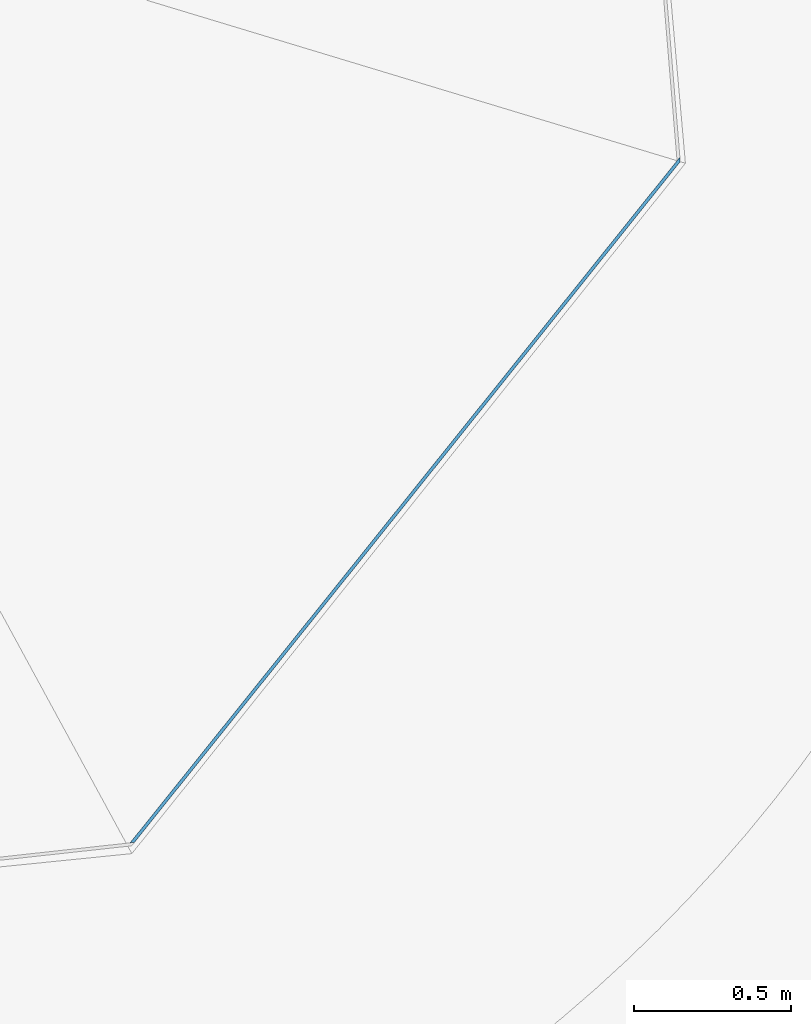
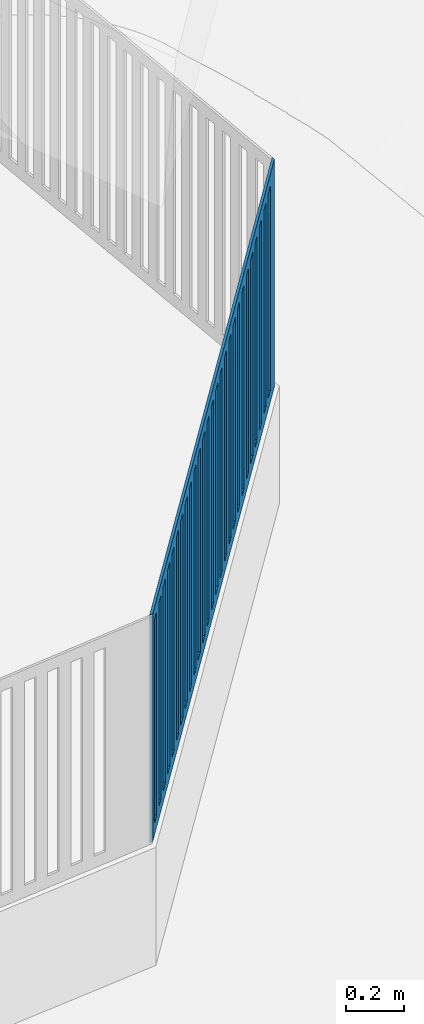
# One storey, part 31 of 75: 1 wall, 27 openings.
"""IFC2X3 building model written with IfcOpenShell, lengths in metres."""

from ifc_helpers import new_model, entity, si_unit, converted_unit, derived_unit, direction, frame, frame_2d, origin, place, context, subcontext, project, spatial, polyline, rectangle, outline, extrude, material, layer, layer_set, layer_usage, type_object, element, save


model = new_model("IFC2X3")

# Units and contexts
model_context = context("Model", 3, precision=1e-05, world=origin(), true_north=direction((6.123031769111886e-17, 1.0)))
body_context = subcontext(model_context, "Body", "Model", "MODEL_VIEW")
ifc_project = project(units=[si_unit("LENGTHUNIT", "METRE"), si_unit("AREAUNIT", "SQUARE_METRE"), si_unit("VOLUMEUNIT", "CUBIC_METRE"), converted_unit("PLANEANGLEUNIT", "DEGREE", entity("IfcRatioMeasure", 0.017453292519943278), si_unit("PLANEANGLEUNIT", "RADIAN"), dimensions=[0, 0, 0, 0, 0, 0, 0]), si_unit("MASSUNIT", "GRAM", prefix="KILO"), derived_unit("MASSDENSITYUNIT", [(si_unit("MASSUNIT", "GRAM", prefix="KILO"), 1), (si_unit("LENGTHUNIT", "METRE"), -3)]), derived_unit("IONCONCENTRATIONUNIT", [(si_unit("MASSUNIT", "GRAM", prefix="KILO"), 1), (si_unit("LENGTHUNIT", "METRE"), -3)]), derived_unit("MOMENTOFINERTIAUNIT", [(si_unit("LENGTHUNIT", "METRE"), 4)]), si_unit("TIMEUNIT", "SECOND"), si_unit("FREQUENCYUNIT", "HERTZ"), si_unit("THERMODYNAMICTEMPERATUREUNIT", "DEGREE_CELSIUS"), derived_unit("THERMALTRANSMITTANCEUNIT", [(si_unit("MASSUNIT", "GRAM", prefix="KILO"), 1), (si_unit("THERMODYNAMICTEMPERATUREUNIT", "KELVIN"), -1), (si_unit("TIMEUNIT", "SECOND"), -3)]), derived_unit("THERMALCONDUCTANCEUNIT", [(si_unit("MASSUNIT", "GRAM", prefix="KILO"), 1), (si_unit("THERMODYNAMICTEMPERATUREUNIT", "KELVIN"), -1), (si_unit("TIMEUNIT", "SECOND"), -3), (si_unit("LENGTHUNIT", "METRE"), 1)]), derived_unit("VOLUMETRICFLOWRATEUNIT", [(si_unit("LENGTHUNIT", "METRE"), 3), (si_unit("TIMEUNIT", "SECOND"), -1)]), derived_unit("MASSFLOWRATEUNIT", [(si_unit("MASSUNIT", "GRAM", prefix="KILO"), 1), (si_unit("TIMEUNIT", "SECOND"), -1)]), derived_unit("ROTATIONALFREQUENCYUNIT", [(si_unit("TIMEUNIT", "SECOND"), -1)]), si_unit("ELECTRICCURRENTUNIT", "AMPERE"), si_unit("ELECTRICVOLTAGEUNIT", "VOLT"), si_unit("POWERUNIT", "WATT"), si_unit("FORCEUNIT", "NEWTON", prefix="KILO"), si_unit("ILLUMINANCEUNIT", "LUX"), si_unit("LUMINOUSFLUXUNIT", "LUMEN"), si_unit("LUMINOUSINTENSITYUNIT", "CANDELA"), derived_unit("USERDEFINED", [(si_unit("MASSUNIT", "GRAM", prefix="KILO"), -1), (si_unit("LENGTHUNIT", "METRE"), -2), (si_unit("TIMEUNIT", "SECOND"), 3), (si_unit("LUMINOUSFLUXUNIT", "LUMEN"), 1)]), derived_unit("USERDEFINED", [(si_unit("MASSUNIT", "GRAM", prefix="KILO"), 1), (si_unit("TIMEUNIT", "SECOND"), -3), (si_unit("LENGTHUNIT", "METRE"), 3), (si_unit("ELECTRICCURRENTUNIT", "AMPERE"), -2)]), derived_unit("SOUNDPOWERUNIT", [(si_unit("MASSUNIT", "GRAM", prefix="KILO"), 1), (si_unit("TIMEUNIT", "SECOND"), -3), (si_unit("LENGTHUNIT", "METRE"), 2)]), derived_unit("SOUNDPRESSUREUNIT", [(si_unit("MASSUNIT", "GRAM", prefix="KILO"), 1), (si_unit("LENGTHUNIT", "METRE"), -1), (si_unit("TIMEUNIT", "SECOND"), -2)]), derived_unit("LINEARVELOCITYUNIT", [(si_unit("LENGTHUNIT", "METRE"), 1), (si_unit("TIMEUNIT", "SECOND"), -1)]), si_unit("PRESSUREUNIT", "PASCAL"), derived_unit("USERDEFINED", [(si_unit("MASSUNIT", "GRAM", prefix="KILO"), 1), (si_unit("LENGTHUNIT", "METRE"), -2), (si_unit("TIMEUNIT", "SECOND"), -2)]), derived_unit("LINEARFORCEUNIT", [(si_unit("MASSUNIT", "GRAM", prefix="KILO"), 1), (si_unit("TIMEUNIT", "SECOND"), -2)]), derived_unit("PLANARFORCEUNIT", [(si_unit("MASSUNIT", "GRAM", prefix="KILO"), 1), (si_unit("LENGTHUNIT", "METRE"), -1), (si_unit("TIMEUNIT", "SECOND"), -2)]), derived_unit("SPECIFICHEATCAPACITYUNIT", [(si_unit("THERMODYNAMICTEMPERATUREUNIT", "KELVIN"), -1), (si_unit("LENGTHUNIT", "METRE"), 2), (si_unit("TIMEUNIT", "SECOND"), -2)]), derived_unit("HEATINGVALUEUNIT", [(si_unit("LENGTHUNIT", "METRE"), 2), (si_unit("TIMEUNIT", "SECOND"), -2)]), derived_unit("VAPORPERMEABILITYUNIT", [(si_unit("LENGTHUNIT", "METRE"), -1), (si_unit("TIMEUNIT", "SECOND"), 1)]), derived_unit("DYNAMICVISCOSITYUNIT", [(si_unit("MASSUNIT", "GRAM", prefix="KILO"), 1), (si_unit("TIMEUNIT", "SECOND"), -1), (si_unit("LENGTHUNIT", "METRE"), -1)]), derived_unit("THERMALEXPANSIONCOEFFICIENTUNIT", [(si_unit("THERMODYNAMICTEMPERATUREUNIT", "KELVIN"), -1)]), derived_unit("MODULUSOFELASTICITYUNIT", [(si_unit("MASSUNIT", "GRAM", prefix="KILO"), 1), (si_unit("LENGTHUNIT", "METRE"), -1), (si_unit("TIMEUNIT", "SECOND"), -2)]), derived_unit("ISOTHERMALMOISTURECAPACITYUNIT", [(si_unit("LENGTHUNIT", "METRE"), 3), (si_unit("MASSUNIT", "GRAM", prefix="KILO"), -1)]), derived_unit("MOISTUREDIFFUSIVITYUNIT", [(si_unit("TIMEUNIT", "SECOND"), -1), (si_unit("LENGTHUNIT", "METRE"), 2)])], contexts=[model_context])

# Site, building, storey
site_placement = place(None, origin())
site = spatial("IfcSite", under=ifc_project, at=site_placement, Name="Default", CompositionType="ELEMENT")
building_placement = place(site_placement, origin())
building = spatial("IfcBuilding", under=site, at=building_placement, Name="Projeto", CompositionType="ELEMENT")
storey_placement = place(building_placement, origin())
storey = spatial("IfcBuildingStorey", under=building, at=storey_placement, Name="Nível 1", CompositionType="ELEMENT", Elevation=0.0)

# Wall, openings
ifc_material = material(Name=".ARQ.PIS - CONTRAPISO.ARMADO")
ifc_layer = layer(ifc_material, 0.01)
ifc_layer_set = layer_set([ifc_layer], Name="Parede básica:15cm 2")
ifc_layer_usage = layer_usage(ifc_layer_set, "AXIS2", "POSITIVE", -0.005000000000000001)
wall_type = type_object("IfcWallType", Name="Parede básica:15cm 2", PredefinedType="STANDARD", material=ifc_layer_set)
wall_placement = place(storey_placement, frame((21.78486297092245, 28.37029751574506, -2.1), z_axis=(0.0, 0.0, 1.0), x_axis=(0.6255850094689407, 0.7801560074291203, 0.0)))
wall = element("IfcWallStandardCase", 1, at=wall_placement, inside=storey, type_object=wall_type, material=ifc_layer_usage, Name="Parede básica:15cm 2", ObjectType="Parede básica:15cm 2", context=body_context, shape_type="SweptSolid", body=[
    extrude(outline(polyline([(0.804475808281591, -0.7702344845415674), (0.8190177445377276, -0.7702344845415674), (0.8084599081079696, -0.7602344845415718), (-1.2161658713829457, 1.1574176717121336), (-1.2157875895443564, 1.143285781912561), (0.804475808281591, -0.7702344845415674)])), frame((1.678886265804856, 0.0010000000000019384, 0.0), z_axis=(0.0, 0.0, 1.0), x_axis=(0.7260268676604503, 0.6876663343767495, 0.0)), (0.0, 0.0, 1.0), 0.964009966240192),
])
opening_1_placement = place(storey_placement, frame((21.78486297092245, 28.37029751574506, -2.1), z_axis=(0.0, 0.0, 1.0), x_axis=(0.6255850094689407, 0.7801560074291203, 0.0)))
element("IfcOpeningElement", 2, at=opening_1_placement, cuts=wall, Name="Parede básica:15cm 2:1", ObjectType="Opening", context=body_context, shape_type="SweptSolid", body=[
    extrude(rectangle(XDim=0.8640099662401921, YDim=0.04999999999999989, at=frame_2d((3.0444397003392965e-15, 1.3877787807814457e-16), x_axis=(0.0, 1.0))), frame((0.07292785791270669, -0.004999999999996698, 0.48200498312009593), z_axis=(0.0, 1.0, 0.0), x_axis=(-1.0, 0.0, 0.0)), (0.0, 0.0, 1.0), 0.009999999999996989),
])
opening_2_placement = place(storey_placement, frame((21.78486297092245, 28.37029751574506, -2.1), z_axis=(0.0, 0.0, 1.0), x_axis=(0.6255850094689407, 0.7801560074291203, 0.0)))
element("IfcOpeningElement", 3, at=opening_2_placement, cuts=wall, Name="Parede básica:15cm 2:2", ObjectType="Opening", context=body_context, shape_type="SweptSolid", body=[
    extrude(rectangle(XDim=0.8640099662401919, YDim=0.05000000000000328, at=frame_2d((1.3548190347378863e-15, 0.0), x_axis=(0.0, 1.0))), frame((0.17292785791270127, -0.004999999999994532, 0.48200498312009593), z_axis=(0.0, 1.0, 0.0), x_axis=(-1.0, 0.0, 0.0)), (0.0, 0.0, 1.0), 0.009999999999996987),
])
opening_3_placement = place(storey_placement, frame((21.78486297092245, 28.37029751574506, -2.1), z_axis=(0.0, 0.0, 1.0), x_axis=(0.6255850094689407, 0.7801560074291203, 0.0)))
element("IfcOpeningElement", 4, at=opening_3_placement, cuts=wall, Name="Parede básica:15cm 2:3", ObjectType="Opening", context=body_context, shape_type="SweptSolid", body=[
    extrude(rectangle(XDim=0.8640099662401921, YDim=0.05000000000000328, at=frame_2d((1.3548190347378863e-15, -1.3877787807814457e-16), x_axis=(0.0, 1.0))), frame((0.27292785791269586, -0.005000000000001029, 0.48200498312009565), z_axis=(0.0, 1.0, 0.0), x_axis=(-1.0, 0.0, 0.0)), (0.0, 0.0, 1.0), 0.009999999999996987),
])
opening_4_placement = place(storey_placement, frame((21.78486297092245, 28.37029751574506, -2.1), z_axis=(0.0, 0.0, 1.0), x_axis=(0.6255850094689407, 0.7801560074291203, 0.0)))
element("IfcOpeningElement", 5, at=opening_4_placement, cuts=wall, Name="Parede básica:15cm 2:4", ObjectType="Opening", context=body_context, shape_type="SweptSolid", body=[
    extrude(rectangle(XDim=0.8640099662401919, YDim=0.04999999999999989, at=frame_2d((3.0444397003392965e-15, 2.7755575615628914e-16), x_axis=(0.0, 1.0))), frame((0.3729278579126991, -0.004999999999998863, 0.48200498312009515), z_axis=(0.0, 1.0, 0.0), x_axis=(-1.0, 0.0, 0.0)), (0.0, 0.0, 1.0), 0.009999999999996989),
])
opening_5_placement = place(storey_placement, frame((21.78486297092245, 28.37029751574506, -2.1), z_axis=(0.0, 0.0, 1.0), x_axis=(0.6255850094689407, 0.7801560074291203, 0.0)))
element("IfcOpeningElement", 6, at=opening_5_placement, cuts=wall, Name="Parede básica:15cm 2:5", ObjectType="Opening", context=body_context, shape_type="SweptSolid", body=[
    extrude(rectangle(XDim=0.8640099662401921, YDim=0.04999999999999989, at=frame_2d((-6.087144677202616e-15, 1.3877787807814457e-16), x_axis=(0.0, 1.0))), frame((0.47292785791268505, -0.004999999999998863, 0.4820049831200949), z_axis=(0.0, 1.0, 0.0), x_axis=(-1.0, 0.0, 0.0)), (0.0, 0.0, 1.0), 0.009999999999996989),
])
opening_6_placement = place(storey_placement, frame((21.78486297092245, 28.37029751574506, -2.1), z_axis=(0.0, 0.0, 1.0), x_axis=(0.6255850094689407, 0.7801560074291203, 0.0)))
element("IfcOpeningElement", 7, at=opening_6_placement, cuts=wall, Name="Parede básica:15cm 2:6", ObjectType="Opening", context=body_context, shape_type="SweptSolid", body=[
    extrude(rectangle(XDim=0.8640099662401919, YDim=0.04999999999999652, at=frame_2d((-1.3530843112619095e-15, 0.0), x_axis=(0.0, 1.0))), frame((0.572927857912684, -0.004999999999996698, 0.4820049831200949), z_axis=(0.0, 1.0, 0.0), x_axis=(-1.0, 0.0, 0.0)), (0.0, 0.0, 1.0), 0.009999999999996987),
])
opening_7_placement = place(storey_placement, frame((21.78486297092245, 28.37029751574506, -2.1), z_axis=(0.0, 0.0, 1.0), x_axis=(0.6255850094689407, 0.7801560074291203, 0.0)))
element("IfcOpeningElement", 8, at=opening_7_placement, cuts=wall, Name="Parede básica:15cm 2:7", ObjectType="Opening", context=body_context, shape_type="SweptSolid", body=[
    extrude(rectangle(XDim=0.8640099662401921, YDim=0.04999999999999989, at=frame_2d((3.0444397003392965e-15, -1.3877787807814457e-16), x_axis=(0.0, 1.0))), frame((0.672927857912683, -0.004999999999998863, 0.4820049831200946), z_axis=(0.0, 1.0, 0.0), x_axis=(-1.0, 0.0, 0.0)), (0.0, 0.0, 1.0), 0.009999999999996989),
])
opening_8_placement = place(storey_placement, frame((21.78486297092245, 28.37029751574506, -2.1), z_axis=(0.0, 0.0, 1.0), x_axis=(0.6255850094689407, 0.7801560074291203, 0.0)))
element("IfcOpeningElement", 9, at=opening_8_placement, cuts=wall, Name="Parede básica:15cm 2:8", ObjectType="Opening", context=body_context, shape_type="SweptSolid", body=[
    extrude(rectangle(XDim=0.8640099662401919, YDim=0.04999999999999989, at=frame_2d((3.0444397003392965e-15, -2.7755575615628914e-16), x_axis=(0.0, 1.0))), frame((0.7729278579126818, -0.004999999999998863, 0.4820049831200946), z_axis=(0.0, 1.0, 0.0), x_axis=(-1.0, 0.0, 0.0)), (0.0, 0.0, 1.0), 0.009999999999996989),
])
opening_9_placement = place(storey_placement, frame((21.78486297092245, 28.37029751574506, -2.1), z_axis=(0.0, 0.0, 1.0), x_axis=(0.6255850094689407, 0.7801560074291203, 0.0)))
element("IfcOpeningElement", 10, at=opening_9_placement, cuts=wall, Name="Parede básica:15cm 2:9", ObjectType="Opening", context=body_context, shape_type="SweptSolid", body=[
    extrude(rectangle(XDim=0.8640099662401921, YDim=0.04999999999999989, at=frame_2d((-3.0444397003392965e-15, 1.3877787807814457e-16), x_axis=(0.0, 1.0))), frame((0.8729278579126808, -0.005000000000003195, 0.48200498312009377), z_axis=(0.0, 1.0, 0.0), x_axis=(-1.0, 0.0, 0.0)), (0.0, 0.0, 1.0), 0.009999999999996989),
])
opening_10_placement = place(storey_placement, frame((21.78486297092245, 28.37029751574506, -2.1), z_axis=(0.0, 0.0, 1.0), x_axis=(0.6255850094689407, 0.7801560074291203, 0.0)))
element("IfcOpeningElement", 11, at=opening_10_placement, cuts=wall, Name="Parede básica:15cm 2:10", ObjectType="Opening", context=body_context, shape_type="SweptSolid", body=[
    extrude(rectangle(XDim=0.8640099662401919, YDim=0.04999999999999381, at=frame_2d((0.0, 2.7755575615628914e-16), x_axis=(0.0, 1.0))), frame((0.9729278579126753, -0.004999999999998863, 0.482004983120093), z_axis=(0.0, 1.0, 0.0), x_axis=(-1.0, 0.0, 0.0)), (0.0, 0.0, 1.0), 0.009999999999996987),
])
opening_11_placement = place(storey_placement, frame((21.78486297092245, 28.37029751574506, -2.1), z_axis=(0.0, 0.0, 1.0), x_axis=(0.6255850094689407, 0.7801560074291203, 0.0)))
element("IfcOpeningElement", 12, at=opening_11_placement, cuts=wall, Name="Parede básica:15cm 2:11", ObjectType="Opening", context=body_context, shape_type="SweptSolid", body=[
    extrude(rectangle(XDim=0.8640099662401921, YDim=0.04999999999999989, at=frame_2d((-4.7340603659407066e-15, 1.3877787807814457e-16), x_axis=(0.0, 1.0))), frame((1.0729278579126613, -0.005000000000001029, 0.4820049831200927), z_axis=(0.0, 1.0, 0.0), x_axis=(-1.0, 0.0, 0.0)), (0.0, 0.0, 1.0), 0.009999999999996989),
])
opening_12_placement = place(storey_placement, frame((21.78486297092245, 28.37029751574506, -2.1), z_axis=(0.0, 0.0, 1.0), x_axis=(0.6255850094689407, 0.7801560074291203, 0.0)))
element("IfcOpeningElement", 13, at=opening_12_placement, cuts=wall, Name="Parede básica:15cm 2:12", ObjectType="Opening", context=body_context, shape_type="SweptSolid", body=[
    extrude(rectangle(XDim=0.8640099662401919, YDim=0.04999999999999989, at=frame_2d((3.0444397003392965e-15, 0.0), x_axis=(0.0, 1.0))), frame((1.1729278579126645, -0.004999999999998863, 0.4820049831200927), z_axis=(0.0, 1.0, 0.0), x_axis=(-1.0, 0.0, 0.0)), (0.0, 0.0, 1.0), 0.009999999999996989),
])
opening_13_placement = place(storey_placement, frame((21.78486297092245, 28.37029751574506, -2.1), z_axis=(0.0, 0.0, 1.0), x_axis=(0.6255850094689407, 0.7801560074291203, 0.0)))
element("IfcOpeningElement", 14, at=opening_13_placement, cuts=wall, Name="Parede básica:15cm 2:13", ObjectType="Opening", context=body_context, shape_type="SweptSolid", body=[
    extrude(rectangle(XDim=0.8640099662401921, YDim=0.04999999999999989, at=frame_2d((-1.6878859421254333e-15, -1.3877787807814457e-16), x_axis=(0.0, 1.0))), frame((1.272927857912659, -0.005000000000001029, 0.48200498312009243), z_axis=(0.0, 1.0, 0.0), x_axis=(-1.0, 0.0, 0.0)), (0.0, 0.0, 1.0), 0.009999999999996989),
])
opening_14_placement = place(storey_placement, frame((21.78486297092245, 28.37029751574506, -2.1), z_axis=(0.0, 0.0, 1.0), x_axis=(0.6255850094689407, 0.7801560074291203, 0.0)))
element("IfcOpeningElement", 15, at=opening_14_placement, cuts=wall, Name="Parede básica:15cm 2:14", ObjectType="Opening", context=body_context, shape_type="SweptSolid", body=[
    extrude(rectangle(XDim=0.8640099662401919, YDim=0.04999999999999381, at=frame_2d((1.3530843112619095e-15, -2.7755575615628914e-16), x_axis=(0.0, 1.0))), frame((1.3729278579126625, -0.005000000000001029, 0.48200498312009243), z_axis=(0.0, 1.0, 0.0), x_axis=(-1.0, 0.0, 0.0)), (0.0, 0.0, 1.0), 0.009999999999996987),
])
opening_15_placement = place(storey_placement, frame((21.78486297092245, 28.37029751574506, -2.1), z_axis=(0.0, 0.0, 1.0), x_axis=(0.6255850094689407, 0.7801560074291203, 0.0)))
element("IfcOpeningElement", 16, at=opening_15_placement, cuts=wall, Name="Parede básica:15cm 2:15", ObjectType="Opening", context=body_context, shape_type="SweptSolid", body=[
    extrude(rectangle(XDim=0.8640099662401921, YDim=0.04999999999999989, at=frame_2d((-3.0444397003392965e-15, 1.3877787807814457e-16), x_axis=(0.0, 1.0))), frame((1.4729278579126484, -0.004999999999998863, 0.4820049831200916), z_axis=(0.0, 1.0, 0.0), x_axis=(-1.0, 0.0, 0.0)), (0.0, 0.0, 1.0), 0.009999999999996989),
])
opening_16_placement = place(storey_placement, frame((21.78486297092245, 28.37029751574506, -2.1), z_axis=(0.0, 0.0, 1.0), x_axis=(0.6255850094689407, 0.7801560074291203, 0.0)))
element("IfcOpeningElement", 17, at=opening_16_placement, cuts=wall, Name="Parede básica:15cm 2:16", ObjectType="Opening", context=body_context, shape_type="SweptSolid", body=[
    extrude(rectangle(XDim=0.8640099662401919, YDim=0.04999999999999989, at=frame_2d((-3.0444397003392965e-15, 0.0), x_axis=(0.0, 1.0))), frame((1.5729278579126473, -0.004999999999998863, 0.4820049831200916), z_axis=(0.0, 1.0, 0.0), x_axis=(-1.0, 0.0, 0.0)), (0.0, 0.0, 1.0), 0.009999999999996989),
])
opening_17_placement = place(storey_placement, frame((21.78486297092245, 28.37029751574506, -2.1), z_axis=(0.0, 0.0, 1.0), x_axis=(0.6255850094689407, 0.7801560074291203, 0.0)))
element("IfcOpeningElement", 18, at=opening_17_placement, cuts=wall, Name="Parede básica:15cm 2:17", ObjectType="Opening", context=body_context, shape_type="SweptSolid", body=[
    extrude(rectangle(XDim=0.8640099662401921, YDim=0.04999999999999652, at=frame_2d((-1.3530843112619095e-15, -1.3877787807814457e-16), x_axis=(0.0, 1.0))), frame((1.6729278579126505, -0.004999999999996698, 0.4820049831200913), z_axis=(0.0, 1.0, 0.0), x_axis=(-1.0, 0.0, 0.0)), (0.0, 0.0, 1.0), 0.009999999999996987),
])
opening_18_placement = place(storey_placement, frame((21.78486297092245, 28.37029751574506, -2.1), z_axis=(0.0, 0.0, 1.0), x_axis=(0.6255850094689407, 0.7801560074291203, 0.0)))
element("IfcOpeningElement", 19, at=opening_18_placement, cuts=wall, Name="Parede básica:15cm 2:18", ObjectType="Opening", context=body_context, shape_type="SweptSolid", body=[
    extrude(rectangle(XDim=0.8640099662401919, YDim=0.04999999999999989, at=frame_2d((3.0444397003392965e-15, 2.7755575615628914e-16), x_axis=(0.0, 1.0))), frame((1.772927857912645, -0.005000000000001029, 0.4820049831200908), z_axis=(0.0, 1.0, 0.0), x_axis=(-1.0, 0.0, 0.0)), (0.0, 0.0, 1.0), 0.009999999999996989),
])
opening_19_placement = place(storey_placement, frame((21.78486297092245, 28.37029751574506, -2.1), z_axis=(0.0, 0.0, 1.0), x_axis=(0.6255850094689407, 0.7801560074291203, 0.0)))
element("IfcOpeningElement", 20, at=opening_19_placement, cuts=wall, Name="Parede básica:15cm 2:19", ObjectType="Opening", context=body_context, shape_type="SweptSolid", body=[
    extrude(rectangle(XDim=0.8640099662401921, YDim=0.04999999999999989, at=frame_2d((-3.0444397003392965e-15, -1.3877787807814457e-16), x_axis=(0.0, 1.0))), frame((1.872927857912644, -0.005000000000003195, 0.48200498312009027), z_axis=(0.0, 1.0, 0.0), x_axis=(-1.0, 0.0, 0.0)), (0.0, 0.0, 1.0), 0.009999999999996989),
])
opening_20_placement = place(storey_placement, frame((21.78486297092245, 28.37029751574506, -2.1), z_axis=(0.0, 0.0, 1.0), x_axis=(0.6255850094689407, 0.7801560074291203, 0.0)))
element("IfcOpeningElement", 21, at=opening_20_placement, cuts=wall, Name="Parede básica:15cm 2:20", ObjectType="Opening", context=body_context, shape_type="SweptSolid", body=[
    extrude(rectangle(XDim=0.8640099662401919, YDim=0.04999999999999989, at=frame_2d((3.0444397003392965e-15, -2.7755575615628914e-16), x_axis=(0.0, 1.0))), frame((1.9729278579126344, -0.004999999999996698, 0.48200498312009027), z_axis=(0.0, 1.0, 0.0), x_axis=(-1.0, 0.0, 0.0)), (0.0, 0.0, 1.0), 0.009999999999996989),
])
opening_21_placement = place(storey_placement, frame((21.78486297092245, 28.37029751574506, -2.1), z_axis=(0.0, 0.0, 1.0), x_axis=(0.6255850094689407, 0.7801560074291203, 0.0)))
element("IfcOpeningElement", 22, at=opening_21_placement, cuts=wall, Name="Parede básica:15cm 2:21", ObjectType="Opening", context=body_context, shape_type="SweptSolid", body=[
    extrude(rectangle(XDim=0.8640099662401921, YDim=0.04999999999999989, at=frame_2d((3.0444397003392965e-15, 1.3877787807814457e-16), x_axis=(0.0, 1.0))), frame((2.0729278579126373, -0.004999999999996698, 0.48200498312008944), z_axis=(0.0, 1.0, 0.0), x_axis=(-1.0, 0.0, 0.0)), (0.0, 0.0, 1.0), 0.009999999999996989),
])
opening_22_placement = place(storey_placement, frame((21.78486297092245, 28.37029751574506, -2.1), z_axis=(0.0, 0.0, 1.0), x_axis=(0.6255850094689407, 0.7801560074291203, 0.0)))
element("IfcOpeningElement", 23, at=opening_22_placement, cuts=wall, Name="Parede básica:15cm 2:22", ObjectType="Opening", context=body_context, shape_type="SweptSolid", body=[
    extrude(rectangle(XDim=0.8640099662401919, YDim=0.049999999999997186, at=frame_2d((-3.380976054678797e-15, 0.0), x_axis=(0.0, 1.0))), frame((2.172927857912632, -0.005000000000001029, 0.48200498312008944), z_axis=(0.0, 1.0, 0.0), x_axis=(-1.0, 0.0, 0.0)), (0.0, 0.0, 1.0), 0.009999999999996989),
])
opening_23_placement = place(storey_placement, frame((21.78486297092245, 28.37029751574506, -2.1), z_axis=(0.0, 0.0, 1.0), x_axis=(0.6255850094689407, 0.7801560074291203, 0.0)))
element("IfcOpeningElement", 24, at=opening_23_placement, cuts=wall, Name="Parede básica:15cm 2:23", ObjectType="Opening", context=body_context, shape_type="SweptSolid", body=[
    extrude(rectangle(XDim=0.8640099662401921, YDim=0.04999999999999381, at=frame_2d((0.0, -1.3877787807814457e-16), x_axis=(0.0, 1.0))), frame((2.272927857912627, -0.005000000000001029, 0.48200498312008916), z_axis=(0.0, 1.0, 0.0), x_axis=(-1.0, 0.0, 0.0)), (0.0, 0.0, 1.0), 0.009999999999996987),
])
opening_24_placement = place(storey_placement, frame((21.78486297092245, 28.37029751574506, -2.1), z_axis=(0.0, 0.0, 1.0), x_axis=(0.6255850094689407, 0.7801560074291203, 0.0)))
element("IfcOpeningElement", 25, at=opening_24_placement, cuts=wall, Name="Parede básica:15cm 2:24", ObjectType="Opening", context=body_context, shape_type="SweptSolid", body=[
    extrude(rectangle(XDim=0.8640099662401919, YDim=0.04999999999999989, at=frame_2d((3.0444397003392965e-15, 2.7755575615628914e-16), x_axis=(0.0, 1.0))), frame((2.37292785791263, -0.004999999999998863, 0.48200498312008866), z_axis=(0.0, 1.0, 0.0), x_axis=(-1.0, 0.0, 0.0)), (0.0, 0.0, 1.0), 0.009999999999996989),
])
opening_25_placement = place(storey_placement, frame((21.78486297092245, 28.37029751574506, -2.1), z_axis=(0.0, 0.0, 1.0), x_axis=(0.6255850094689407, 0.7801560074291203, 0.0)))
element("IfcOpeningElement", 26, at=opening_25_placement, cuts=wall, Name="Parede básica:15cm 2:25", ObjectType="Opening", context=body_context, shape_type="SweptSolid", body=[
    extrude(rectangle(XDim=0.8640099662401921, YDim=0.04999999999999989, at=frame_2d((-6.087144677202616e-15, 1.3877787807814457e-16), x_axis=(0.0, 1.0))), frame((2.472927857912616, -0.004999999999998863, 0.4820049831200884), z_axis=(0.0, 1.0, 0.0), x_axis=(-1.0, 0.0, 0.0)), (0.0, 0.0, 1.0), 0.009999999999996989),
])
opening_26_placement = place(storey_placement, frame((21.78486297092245, 28.37029751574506, -2.1), z_axis=(0.0, 0.0, 1.0), x_axis=(0.6255850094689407, 0.7801560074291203, 0.0)))
element("IfcOpeningElement", 27, at=opening_26_placement, cuts=wall, Name="Parede básica:15cm 2:26", ObjectType="Opening", context=body_context, shape_type="SweptSolid", body=[
    extrude(rectangle(XDim=0.8640099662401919, YDim=0.04999999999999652, at=frame_2d((-1.3530843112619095e-15, 0.0), x_axis=(0.0, 1.0))), frame((2.572927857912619, -0.004999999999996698, 0.4820049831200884), z_axis=(0.0, 1.0, 0.0), x_axis=(-1.0, 0.0, 0.0)), (0.0, 0.0, 1.0), 0.009999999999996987),
])
opening_27_placement = place(storey_placement, frame((21.78486297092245, 28.37029751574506, -2.1), z_axis=(0.0, 0.0, 1.0), x_axis=(0.6255850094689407, 0.7801560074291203, 0.0)))
element("IfcOpeningElement", 28, at=opening_27_placement, cuts=wall, Name="Parede básica:15cm 2:27", ObjectType="Opening", context=body_context, shape_type="SweptSolid", body=[
    extrude(rectangle(XDim=0.8640099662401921, YDim=0.04999999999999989, at=frame_2d((1.6878859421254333e-15, -1.3877787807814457e-16), x_axis=(0.0, 1.0))), frame((2.672927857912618, -0.004999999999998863, 0.4820049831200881), z_axis=(0.0, 1.0, 0.0), x_axis=(-1.0, 0.0, 0.0)), (0.0, 0.0, 1.0), 0.009999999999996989),
])

save(model, "model.ifc")
